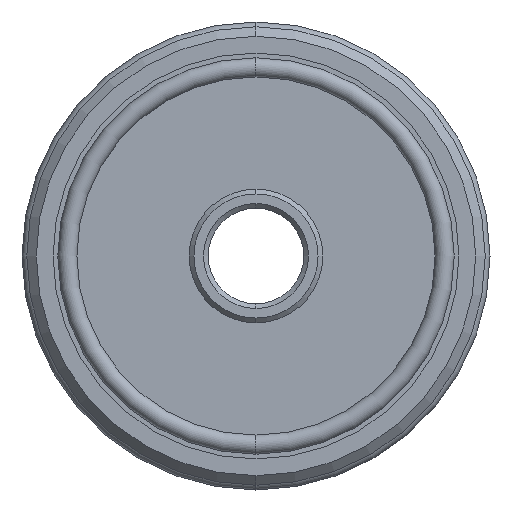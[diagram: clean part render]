
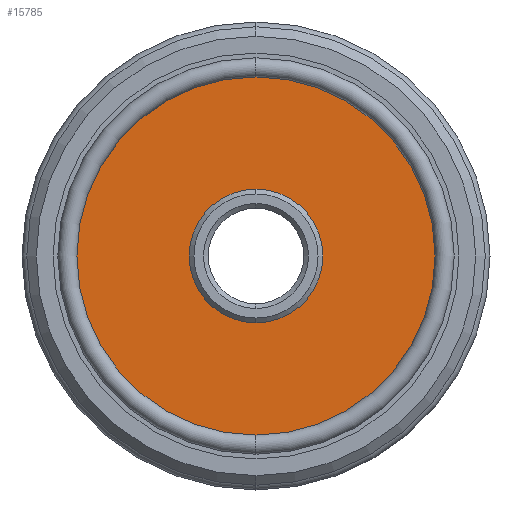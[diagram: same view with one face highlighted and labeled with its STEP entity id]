
A CAD part, left-side view. The second image highlights one B-rep face of the part: STEP entity #15785.
In plain terms, the highlighted planar face has unit normal (-1, 0, 0).
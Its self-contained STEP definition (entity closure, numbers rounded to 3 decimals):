
#1588 = VERTEX_POINT ( 'NONE', #42695 ) ;
#1592 = EDGE_CURVE ( 'NONE', #1594, #1588, #42694, .T. ) ;
#1594 = VERTEX_POINT ( 'NONE', #42689 ) ;
#15147 = VERTEX_POINT ( 'NONE', #20654 ) ;
#15149 = EDGE_CURVE ( 'NONE', #15147, #15150, #20653, .T. ) ;
#15150 = VERTEX_POINT ( 'NONE', #20648 ) ;
#15331 = EDGE_CURVE ( 'NONE', #15150, #15147, #21241, .T. ) ;
#15785 = ADVANCED_FACE ( 'NONE', ( #25666, #25665 ), #25662, .F. ) ;
#15786 = EDGE_LOOP ( 'NONE', ( #15787, #15788 ) ) ;
#15787 = ORIENTED_EDGE ( 'NONE', *, *, #15331, .F. ) ;
#15788 = ORIENTED_EDGE ( 'NONE', *, *, #15149, .F. ) ;
#15789 = EDGE_LOOP ( 'NONE', ( #15839, #15840 ) ) ;
#15839 = ORIENTED_EDGE ( 'NONE', *, *, #1592, .T. ) ;
#15840 = ORIENTED_EDGE ( 'NONE', *, *, #15841, .T. ) ;
#15841 = EDGE_CURVE ( 'NONE', #1588, #1594, #25998, .T. ) ;
#20648 = CARTESIAN_POINT ( 'NONE',  ( 0., 0., 7.005 ) ) ;
#20649 = DIRECTION ( 'NONE',  ( 0., 0., 1. ) ) ;
#20650 = DIRECTION ( 'NONE',  ( -1., 0., 0. ) ) ;
#20651 = CARTESIAN_POINT ( 'NONE',  ( 0., 0., 0. ) ) ;
#20652 = AXIS2_PLACEMENT_3D ( 'NONE', #20651, #20650, #20649 ) ;
#20653 = CIRCLE ( 'NONE', #20652, 7.005 ) ;
#20654 = CARTESIAN_POINT ( 'NONE',  ( 0., 0., -7.005 ) ) ;
#21174 = CARTESIAN_POINT ( 'NONE',  ( 0., 0., 0. ) ) ;
#21238 = DIRECTION ( 'NONE',  ( 0., 0., 1. ) ) ;
#21239 = DIRECTION ( 'NONE',  ( -1., 0., 0. ) ) ;
#21240 = AXIS2_PLACEMENT_3D ( 'NONE', #21174, #21239, #21238 ) ;
#21241 = CIRCLE ( 'NONE', #21240, 7.005 ) ;
#25658 = DIRECTION ( 'NONE',  ( 0., 0., -1. ) ) ;
#25659 = DIRECTION ( 'NONE',  ( 1., 0., 0. ) ) ;
#25660 = CARTESIAN_POINT ( 'NONE',  ( 0., 0., -12. ) ) ;
#25661 = AXIS2_PLACEMENT_3D ( 'NONE', #25660, #25659, #25658 ) ;
#25662 = PLANE ( 'NONE',  #25661 ) ;
#25665 = FACE_OUTER_BOUND ( 'NONE', #15789, .T. ) ;
#25666 = FACE_BOUND ( 'NONE', #15786, .T. ) ;
#25991 = DIRECTION ( 'NONE',  ( 0., 0., 1. ) ) ;
#25993 = DIRECTION ( 'NONE',  ( -1., 0., 0. ) ) ;
#25994 = CARTESIAN_POINT ( 'NONE',  ( 0., 0., 0. ) ) ;
#25996 = AXIS2_PLACEMENT_3D ( 'NONE', #25994, #25993, #25991 ) ;
#25998 = CIRCLE ( 'NONE', #25996, 18.75 ) ;
#42689 = CARTESIAN_POINT ( 'NONE',  ( 0., 0., 18.75 ) ) ;
#42690 = DIRECTION ( 'NONE',  ( 0., 0., 1. ) ) ;
#42691 = DIRECTION ( 'NONE',  ( -1., 0., 0. ) ) ;
#42692 = CARTESIAN_POINT ( 'NONE',  ( 0., 0., 0. ) ) ;
#42693 = AXIS2_PLACEMENT_3D ( 'NONE', #42692, #42691, #42690 ) ;
#42694 = CIRCLE ( 'NONE', #42693, 18.75 ) ;
#42695 = CARTESIAN_POINT ( 'NONE',  ( 0., 0., -18.75 ) ) ;
